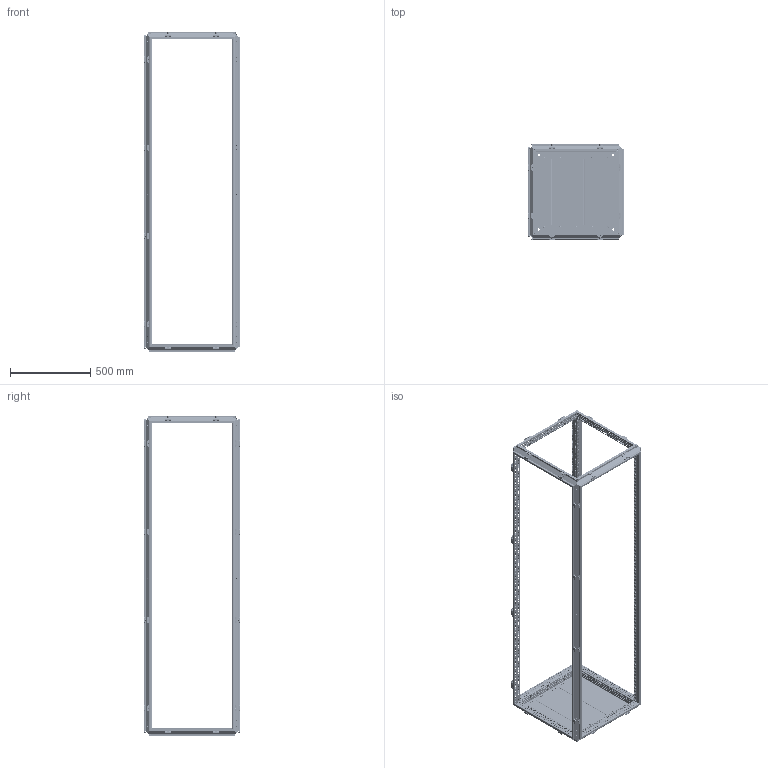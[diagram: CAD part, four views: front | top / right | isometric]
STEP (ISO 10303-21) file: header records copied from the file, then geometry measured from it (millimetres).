
FILE_DESCRIPTION(('STEP AP203'), '1');
FILE_NAME('3000 忺謤僔 捘', '', ('UNSPECIFIED'), ('UNSPECIFIED'), 'C3D Converter', 'C3D Toolkit', '');
FILE_SCHEMA(('CONFIG_CONTROL_DESIGN'));
Length unit declared in the file: millimetre
Products named in the file (13): 3000.200.60.60 СБ; 3000; 3007.175; 3007.75; 3007.200; 3009.04; 3009.04.01; 3009.04.2; 3009.04.01.2
Assembly tree (133 placements, depth 3):
  3000.200.60.60 СБ
    3000
    (unnamed)  x88
    3007.175
    (unnamed)  x10
    3007.75
    3007.200
    3009.04  x8
      3009.04.01
      (unnamed)
      (unnamed)
    3009.04.2  x14
      3009.04.01.2
      (unnamed)
      (unnamed)
Bounding box: 597 x 597 x 1998.5 mm (x, y, z)
Volume: 3570116.4 mm3; surface area: 4753824.6 mm2
Topology: 220 solids, 220 shells, 16471 faces, 46175 edges, 30468 vertices
Faces by surface type: plane 11521, cylinder 4054, cone 600, torus 236, bspline 60
Full cylindrical faces by diameter (mm): 4.134 x124, 4.5 x1844, 4.8 x10, 5 x132, 5.8 x36, 6.8 x176, 7 x88, 7.5 x44, 8 x88, 9.2 x44, 10.106 x8, 14 x4
Entity records: 376037 total; most frequent: CARTESIAN_POINT 68742, ORIENTED_EDGE 60550, DIRECTION 57331, EDGE_CURVE 30275, LINE 24875, VECTOR 24875, VERTEX_POINT 21314, EDGE_LOOP 20567
